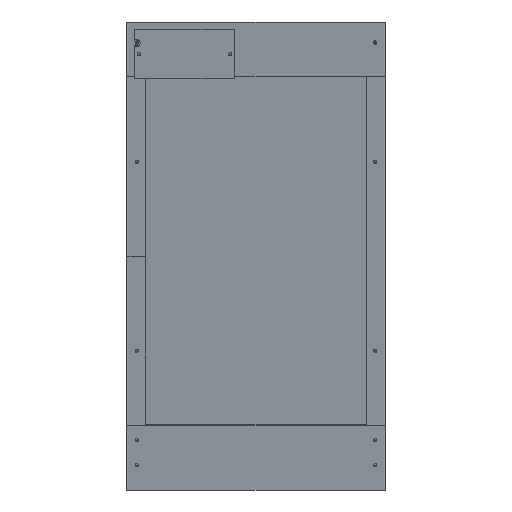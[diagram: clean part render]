
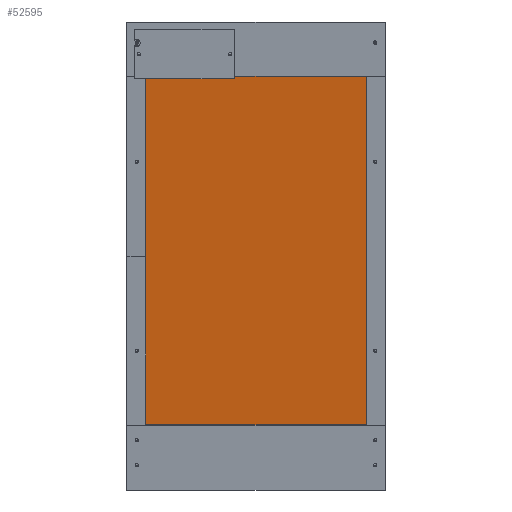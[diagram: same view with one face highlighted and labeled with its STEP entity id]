
A CAD part, top view. The second image highlights one B-rep face of the part: STEP entity #52595.
In plain terms, the highlighted planar face has unit normal (0, -0.174, 0.985).
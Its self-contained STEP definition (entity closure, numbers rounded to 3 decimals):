
#52426 = PLANE('',#52427);
#52427 = AXIS2_PLACEMENT_3D('',#52428,#52429,#52430);
#52428 = CARTESIAN_POINT('',(18.1,64.,86.285));
#52429 = DIRECTION('',(-0.,1.,0.));
#52430 = DIRECTION('',(0.,0.,-1.));
#52454 = PLANE('',#52455);
#52455 = AXIS2_PLACEMENT_3D('',#52456,#52457,#52458);
#52456 = CARTESIAN_POINT('',(241.9,240.675,111.437));
#52457 = DIRECTION('',(1.,0.,0.));
#52458 = DIRECTION('',(-0.,0.,1.));
#52482 = PLANE('',#52483);
#52483 = AXIS2_PLACEMENT_3D('',#52484,#52485,#52486);
#52484 = CARTESIAN_POINT('',(18.1,417.349,136.59));
#52485 = DIRECTION('',(0.,-1.,0.));
#52486 = DIRECTION('',(0.,0.,1.));
#52508 = PLANE('',#52509);
#52509 = AXIS2_PLACEMENT_3D('',#52510,#52511,#52512);
#52510 = CARTESIAN_POINT('',(18.1,240.675,111.437));
#52511 = DIRECTION('',(1.,0.,0.));
#52512 = DIRECTION('',(-0.,0.,1.));
#52525 = VERTEX_POINT('',#52526);
#52526 = CARTESIAN_POINT('',(241.9,417.349,148.59));
#52547 = EDGE_CURVE('',#52548,#52525,#52550,.T.);
#52548 = VERTEX_POINT('',#52549);
#52549 = CARTESIAN_POINT('',(18.1,417.349,148.59));
#52550 = SURFACE_CURVE('',#52551,(#52555,#52562),.PCURVE_S1.);
#52551 = LINE('',#52552,#52553);
#52552 = CARTESIAN_POINT('',(18.1,417.349,148.59));
#52553 = VECTOR('',#52554,1.);
#52554 = DIRECTION('',(1.,0.,0.));
#52555 = PCURVE('',#52482,#52556);
#52556 = DEFINITIONAL_REPRESENTATION('',(#52557),#52561);
#52557 = LINE('',#52558,#52559);
#52558 = CARTESIAN_POINT('',(12.,0.));
#52559 = VECTOR('',#52560,1.);
#52560 = DIRECTION('',(0.,-1.));
#52561 = ( GEOMETRIC_REPRESENTATION_CONTEXT(2) 
PARAMETRIC_REPRESENTATION_CONTEXT() REPRESENTATION_CONTEXT('2D SPACE',''
  ) );
#52562 = PCURVE('',#52563,#52568);
#52563 = PLANE('',#52564);
#52564 = AXIS2_PLACEMENT_3D('',#52565,#52566,#52567);
#52565 = CARTESIAN_POINT('',(18.1,417.349,148.59));
#52566 = DIRECTION('',(0.,0.174,-0.985));
#52567 = DIRECTION('',(0.,-0.985,-0.174));
#52568 = DEFINITIONAL_REPRESENTATION('',(#52569),#52573);
#52569 = LINE('',#52570,#52571);
#52570 = CARTESIAN_POINT('',(0.,0.));
#52571 = VECTOR('',#52572,1.);
#52572 = DIRECTION('',(0.,-1.));
#52573 = ( GEOMETRIC_REPRESENTATION_CONTEXT(2) 
PARAMETRIC_REPRESENTATION_CONTEXT() REPRESENTATION_CONTEXT('2D SPACE',''
  ) );
#52595 = ADVANCED_FACE('',(#52596),#52563,.F.);
#52596 = FACE_BOUND('',#52597,.F.);
#52597 = EDGE_LOOP('',(#52598,#52599,#52622,#52645));
#52598 = ORIENTED_EDGE('',*,*,#52547,.T.);
#52599 = ORIENTED_EDGE('',*,*,#52600,.T.);
#52600 = EDGE_CURVE('',#52525,#52601,#52603,.T.);
#52601 = VERTEX_POINT('',#52602);
#52602 = CARTESIAN_POINT('',(241.9,64.,86.285));
#52603 = SURFACE_CURVE('',#52604,(#52608,#52615),.PCURVE_S1.);
#52604 = LINE('',#52605,#52606);
#52605 = CARTESIAN_POINT('',(241.9,417.349,148.59));
#52606 = VECTOR('',#52607,1.);
#52607 = DIRECTION('',(0.,-0.985,-0.174));
#52608 = PCURVE('',#52563,#52609);
#52609 = DEFINITIONAL_REPRESENTATION('',(#52610),#52614);
#52610 = LINE('',#52611,#52612);
#52611 = CARTESIAN_POINT('',(0.,-223.8));
#52612 = VECTOR('',#52613,1.);
#52613 = DIRECTION('',(1.,0.));
#52614 = ( GEOMETRIC_REPRESENTATION_CONTEXT(2) 
PARAMETRIC_REPRESENTATION_CONTEXT() REPRESENTATION_CONTEXT('2D SPACE',''
  ) );
#52615 = PCURVE('',#52454,#52616);
#52616 = DEFINITIONAL_REPRESENTATION('',(#52617),#52621);
#52617 = LINE('',#52618,#52619);
#52618 = CARTESIAN_POINT('',(37.152,-176.675));
#52619 = VECTOR('',#52620,1.);
#52620 = DIRECTION('',(-0.174,0.985));
#52621 = ( GEOMETRIC_REPRESENTATION_CONTEXT(2) 
PARAMETRIC_REPRESENTATION_CONTEXT() REPRESENTATION_CONTEXT('2D SPACE',''
  ) );
#52622 = ORIENTED_EDGE('',*,*,#52623,.F.);
#52623 = EDGE_CURVE('',#52624,#52601,#52626,.T.);
#52624 = VERTEX_POINT('',#52625);
#52625 = CARTESIAN_POINT('',(18.1,64.,86.285));
#52626 = SURFACE_CURVE('',#52627,(#52631,#52638),.PCURVE_S1.);
#52627 = LINE('',#52628,#52629);
#52628 = CARTESIAN_POINT('',(18.1,64.,86.285));
#52629 = VECTOR('',#52630,1.);
#52630 = DIRECTION('',(1.,0.,0.));
#52631 = PCURVE('',#52563,#52632);
#52632 = DEFINITIONAL_REPRESENTATION('',(#52633),#52637);
#52633 = LINE('',#52634,#52635);
#52634 = CARTESIAN_POINT('',(358.8,0.));
#52635 = VECTOR('',#52636,1.);
#52636 = DIRECTION('',(0.,-1.));
#52637 = ( GEOMETRIC_REPRESENTATION_CONTEXT(2) 
PARAMETRIC_REPRESENTATION_CONTEXT() REPRESENTATION_CONTEXT('2D SPACE',''
  ) );
#52638 = PCURVE('',#52426,#52639);
#52639 = DEFINITIONAL_REPRESENTATION('',(#52640),#52644);
#52640 = LINE('',#52641,#52642);
#52641 = CARTESIAN_POINT('',(0.,0.));
#52642 = VECTOR('',#52643,1.);
#52643 = DIRECTION('',(0.,-1.));
#52644 = ( GEOMETRIC_REPRESENTATION_CONTEXT(2) 
PARAMETRIC_REPRESENTATION_CONTEXT() REPRESENTATION_CONTEXT('2D SPACE',''
  ) );
#52645 = ORIENTED_EDGE('',*,*,#52646,.F.);
#52646 = EDGE_CURVE('',#52548,#52624,#52647,.T.);
#52647 = SURFACE_CURVE('',#52648,(#52652,#52659),.PCURVE_S1.);
#52648 = LINE('',#52649,#52650);
#52649 = CARTESIAN_POINT('',(18.1,417.349,148.59));
#52650 = VECTOR('',#52651,1.);
#52651 = DIRECTION('',(0.,-0.985,-0.174));
#52652 = PCURVE('',#52563,#52653);
#52653 = DEFINITIONAL_REPRESENTATION('',(#52654),#52658);
#52654 = LINE('',#52655,#52656);
#52655 = CARTESIAN_POINT('',(0.,0.));
#52656 = VECTOR('',#52657,1.);
#52657 = DIRECTION('',(1.,0.));
#52658 = ( GEOMETRIC_REPRESENTATION_CONTEXT(2) 
PARAMETRIC_REPRESENTATION_CONTEXT() REPRESENTATION_CONTEXT('2D SPACE',''
  ) );
#52659 = PCURVE('',#52508,#52660);
#52660 = DEFINITIONAL_REPRESENTATION('',(#52661),#52665);
#52661 = LINE('',#52662,#52663);
#52662 = CARTESIAN_POINT('',(37.152,-176.675));
#52663 = VECTOR('',#52664,1.);
#52664 = DIRECTION('',(-0.174,0.985));
#52665 = ( GEOMETRIC_REPRESENTATION_CONTEXT(2) 
PARAMETRIC_REPRESENTATION_CONTEXT() REPRESENTATION_CONTEXT('2D SPACE',''
  ) );
